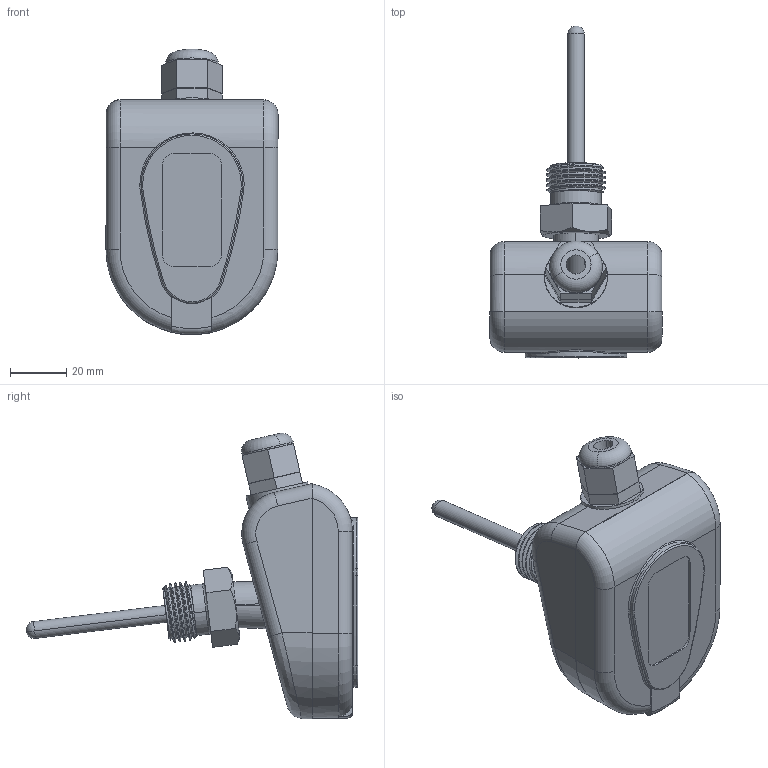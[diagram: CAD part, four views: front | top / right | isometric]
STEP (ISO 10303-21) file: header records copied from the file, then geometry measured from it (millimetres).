
FILE_DESCRIPTION (( 'STEP AP203' ), '1' );
FILE_NAME ('Ñáîðêà ESTF-50.STEP', '2019-10-08T11:31:35', ( '' ), ( '' ), 'SwSTEP 2.0', 'SolidWorks 2016', '' );
FILE_SCHEMA (( 'CONFIG_CONTROL_DESIGN' ));
Length unit declared in the file: millimetre
Products named in the file (12): ïëàòà, êðóãëàÿ; Êîðïóñ_„«ï âàã¡®ª; ESTF-PT1000-50-PVC-2; Êðûøêà; 櫻蠉錪8^栖闉罻; Ãåðìîââîä; 秮鶋罻; 栖闉罻 ESTF-50; Êëåìíèê; 砎鍒鍱 1; 砎鍒鍱 2; 櫻蠉錪7^栖闉罻
Assembly tree (11 placements, depth 2):
  栖闉罻 ESTF-50
    Êîðïóñ_„«ï âàã¡®ª
    Êðûøêà
    秮鶋罻
    Êëåìíèê
    砎鍒鍱 1
    砎鍒鍱 2
    櫻蠉錪7^栖闉罻
    櫻蠉錪8^栖闉罻
    ïëàòà, êðóãëàÿ
    ESTF-PT1000-50-PVC-2
    Ãåðìîââîä
Bounding box: 61.05 x 117.77 x 101.33 mm (x, y, z)
Volume: 66097.2 mm3; surface area: 60954.3 mm2
Topology: 11 solids, 11 shells, 497 faces, 1242 edges, 806 vertices
Faces by surface type: plane 249, cylinder 172, torus 32, bspline 26, cone 16, sphere 2
Entity records: 23095 total; most frequent: CARTESIAN_POINT 10118, ORIENTED_EDGE 2476, DIRECTION 2384, EDGE_CURVE 1238, AXIS2_PLACEMENT_3D 866, VERTEX_POINT 804, VECTOR 652, LINE 652
